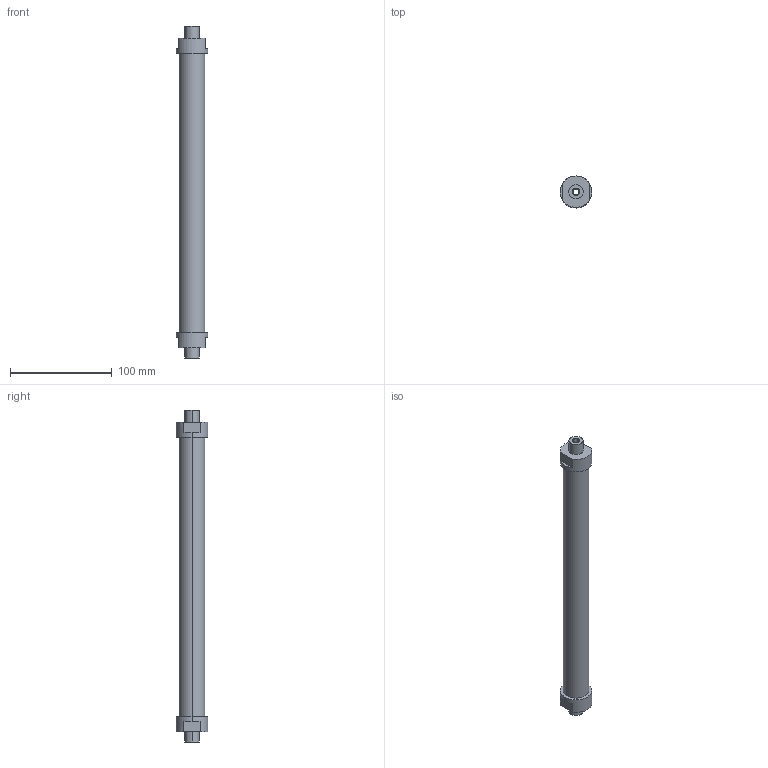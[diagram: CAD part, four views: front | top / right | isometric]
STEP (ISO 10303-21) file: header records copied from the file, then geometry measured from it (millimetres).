
FILE_DESCRIPTION(('STEP AP214'),'1');
FILE_NAME('ETT-R050G314.stp','2015-02-02T11:39:37',(' '),(' '),'Spatial InterOp 3D',' ',' ');
FILE_SCHEMA(('automotive_design'));
Length unit declared in the file: metre
Products named in the file (3): 1; 2; 3
Bounding box: 31 x 31 x 326 mm (x, y, z)
Volume: 150166.7 mm3; surface area: 34009 mm2
Topology: 1 solids, 7 shells, 32 faces, 86 edges, 66 vertices
Faces by surface type: cylinder 16, plane 16
Entity records: 1375 total; most frequent: DIRECTION 206, CARTESIAN_POINT 187, ORIENTED_EDGE 148, EDGE_CURVE 86, AXIS2_PLACEMENT_3D 85, VERTEX_POINT 66, CIRCLE 50, EDGE_LOOP 40
